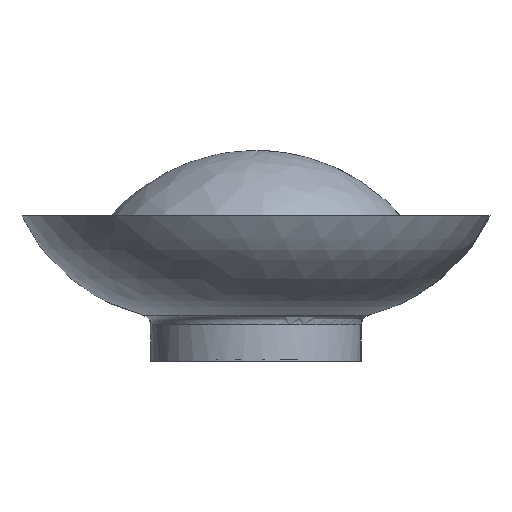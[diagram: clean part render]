
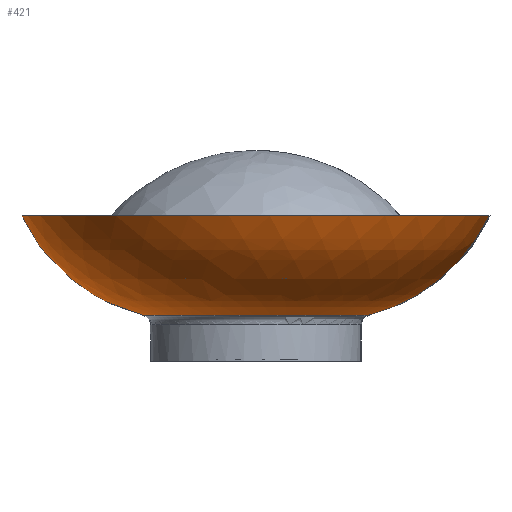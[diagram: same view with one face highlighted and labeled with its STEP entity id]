
A CAD part, left-side view. The second image highlights one B-rep face of the part: STEP entity #421.
In plain terms, the highlighted free-form (B-spline) face has degree [2, 2] with [3, 5] control points.
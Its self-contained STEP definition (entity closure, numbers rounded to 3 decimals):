
#41=B_SPLINE_CURVE_WITH_KNOTS('',3,(#2129,#2130,#2131,#2132,#2133,#2134,
#2135,#2136,#2137,#2138),.UNSPECIFIED.,.F.,.F.,(4,1,1,1,1,1,1,4),(0.,0.143,
0.286,0.429,0.571,0.714,
0.857,1.),.UNSPECIFIED.);
#73=(
BOUNDED_SURFACE()
B_SPLINE_SURFACE(2,2,((#2114,#2115,#2116,#2117,#2118),(#2119,#2120,#2121,
#2122,#2123),(#2124,#2125,#2126,#2127,#2128)),.UNSPECIFIED.,.F.,.F.,.F.)
B_SPLINE_SURFACE_WITH_KNOTS((3,3),(3,2,3),(-1.33,-0.444),
(-1.571,0.,1.571),.UNSPECIFIED.)
GEOMETRIC_REPRESENTATION_ITEM()
RATIONAL_B_SPLINE_SURFACE(((1.,0.707,1.,0.707,1.),
(0.903,0.639,0.903,0.639,
0.903),(1.,0.707,1.,0.707,1.)))
REPRESENTATION_ITEM('')
SURFACE()
);
#99=FACE_OUTER_BOUND('',#131,.T.);
#131=EDGE_LOOP('',(#370,#371,#372,#373));
#185=CIRCLE('',#466,100.);
#186=CIRCLE('',#467,77.984);
#187=CIRCLE('',#468,77.984);
#212=VERTEX_POINT('',#2078);
#213=VERTEX_POINT('',#2080);
#214=VERTEX_POINT('',#2100);
#215=VERTEX_POINT('',#2102);
#264=EDGE_CURVE('',#212,#213,#185,.T.);
#265=EDGE_CURVE('',#214,#212,#186,.T.);
#267=EDGE_CURVE('',#213,#215,#187,.T.);
#268=EDGE_CURVE('',#214,#215,#41,.T.);
#370=ORIENTED_EDGE('',*,*,#264,.T.);
#371=ORIENTED_EDGE('',*,*,#267,.T.);
#372=ORIENTED_EDGE('',*,*,#268,.F.);
#373=ORIENTED_EDGE('',*,*,#265,.T.);
#421=ADVANCED_FACE('',(#99),#73,.F.);
#466=AXIS2_PLACEMENT_3D('',#2084,#559,#560);
#467=AXIS2_PLACEMENT_3D('',#2101,#561,#562);
#468=AXIS2_PLACEMENT_3D('',#2113,#563,#564);
#559=DIRECTION('center_axis',(0.,0.,
-1.));
#560=DIRECTION('ref_axis',(1.,0.,0.));
#561=DIRECTION('center_axis',(-1.,0.,0.));
#562=DIRECTION('ref_axis',(0.,-1.,0.));
#563=DIRECTION('center_axis',(-1.,0.,0.));
#564=DIRECTION('ref_axis',(0.,1.,0.));
#2078=CARTESIAN_POINT('',(0.,-100.,62.077));
#2080=CARTESIAN_POINT('',(0.,100.,62.077));
#2084=CARTESIAN_POINT('Origin',(0.,0.,
62.077));
#2100=CARTESIAN_POINT('',(0.,-48.222,19.828));
#2101=CARTESIAN_POINT('Origin',(0.,-29.564,
95.547));
#2102=CARTESIAN_POINT('',(0.,48.222,19.828));
#2113=CARTESIAN_POINT('Origin',(0.,29.564,95.547));
#2114=CARTESIAN_POINT('Ctrl Pts',(0.,48.199,
19.822));
#2115=CARTESIAN_POINT('Ctrl Pts',(-48.199,48.199,19.822));
#2116=CARTESIAN_POINT('Ctrl Pts',(-48.199,0.,
19.822));
#2117=CARTESIAN_POINT('Ctrl Pts',(-48.199,-48.199,19.822));
#2118=CARTESIAN_POINT('Ctrl Pts',(0.,-48.199,
19.822));
#2119=CARTESIAN_POINT('Ctrl Pts',(0.,84.122,
28.663));
#2120=CARTESIAN_POINT('Ctrl Pts',(-84.122,84.122,28.663));
#2121=CARTESIAN_POINT('Ctrl Pts',(-84.122,0.,
28.663));
#2122=CARTESIAN_POINT('Ctrl Pts',(-84.122,-84.122,28.663));
#2123=CARTESIAN_POINT('Ctrl Pts',(0.,-84.122,
28.663));
#2124=CARTESIAN_POINT('Ctrl Pts',(0.,100.,
62.077));
#2125=CARTESIAN_POINT('Ctrl Pts',(-100.,100.,62.077));
#2126=CARTESIAN_POINT('Ctrl Pts',(-100.,0.,62.077));
#2127=CARTESIAN_POINT('Ctrl Pts',(-100.,-100.,62.077));
#2128=CARTESIAN_POINT('Ctrl Pts',(0.,-100.,62.077));
#2129=CARTESIAN_POINT('Ctrl Pts',(0.,-48.222,
19.828));
#2130=CARTESIAN_POINT('Ctrl Pts',(-7.263,-48.327,19.828));
#2131=CARTESIAN_POINT('Ctrl Pts',(-21.613,-44.881,19.828));
#2132=CARTESIAN_POINT('Ctrl Pts',(-38.995,-31.106,19.828));
#2133=CARTESIAN_POINT('Ctrl Pts',(-48.617,-11.092,19.828));
#2134=CARTESIAN_POINT('Ctrl Pts',(-48.617,11.092,19.828));
#2135=CARTESIAN_POINT('Ctrl Pts',(-38.995,31.106,19.828));
#2136=CARTESIAN_POINT('Ctrl Pts',(-21.613,44.881,19.828));
#2137=CARTESIAN_POINT('Ctrl Pts',(-7.263,48.327,19.828));
#2138=CARTESIAN_POINT('Ctrl Pts',(0.,48.222,
19.828));
